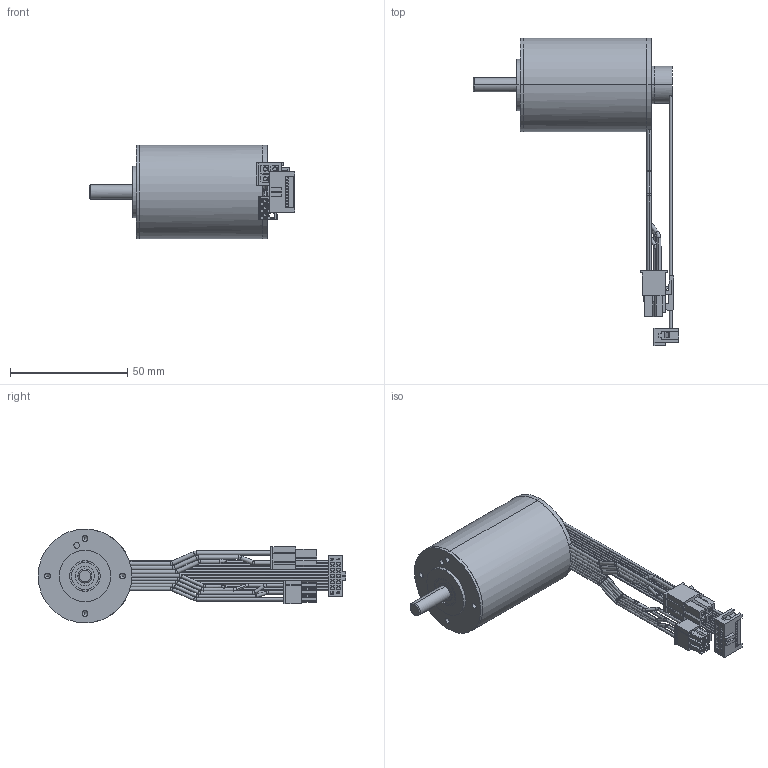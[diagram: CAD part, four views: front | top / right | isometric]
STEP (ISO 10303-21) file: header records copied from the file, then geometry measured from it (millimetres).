
FILE_DESCRIPTION (( 'STEP AP214' ), '1' );
FILE_NAME ('EC-I40HT_100W+EASY.STEP', '2019-06-24T13:25:45', ( '' ), ( '' ), 'SwSTEP 2.0', 'SolidWorks 2018', '' );
FILE_SCHEMA (( 'AUTOMOTIVE_DESIGN' ));
Length unit declared in the file: millimetre
Products named in the file (5): EC-I40HT_100W+EASY; encoder 16 EASY; codeur_Part; CONNECTEUR_HE10_10pts; ECi40HT_100W NS 0_Part
Assembly tree (4 placements, depth 3):
  EC-I40HT_100W+EASY
    ECi40HT_100W NS 0_Part
    encoder 16 EASY
      codeur_Part
      CONNECTEUR_HE10_10pts
Bounding box: 87.8 x 131.44 x 40 mm (x, y, z)
Volume: 77803.5 mm3; surface area: 22116.7 mm2
Topology: 4 solids, 4 shells, 846 faces, 2239 edges, 1412 vertices
Faces by surface type: plane 537, cylinder 167, bspline 112, cone 30
Entity records: 29837 total; most frequent: CARTESIAN_POINT 9032, ORIENTED_EDGE 4434, DIRECTION 4010, EDGE_CURVE 2217, VECTOR 1600, LINE 1600, VERTEX_POINT 1412, AXIS2_PLACEMENT_3D 1205
